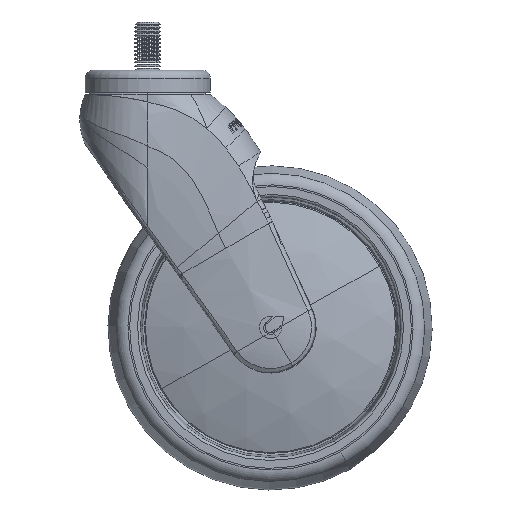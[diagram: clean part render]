
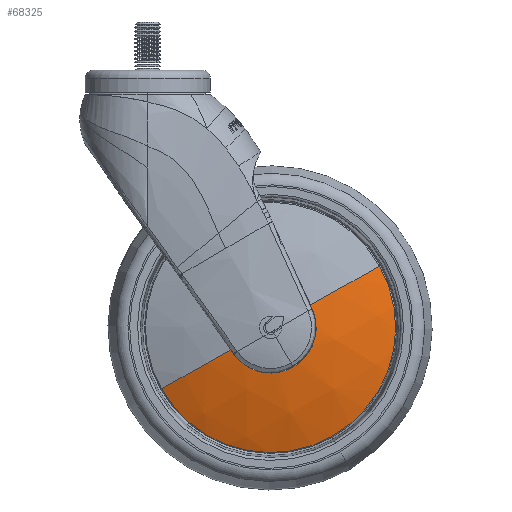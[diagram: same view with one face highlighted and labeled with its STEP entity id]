
A CAD part, front view. The second image highlights one B-rep face of the part: STEP entity #68325.
In plain terms, the highlighted spherical face has radius 136.86 mm.
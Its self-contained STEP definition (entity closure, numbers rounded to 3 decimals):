
#35863 = CARTESIAN_POINT ( 'NONE',  ( 16.374, -14.308, -55.701 ) ) ;
#35885 = CARTESIAN_POINT ( 'NONE',  ( 73.427, -6.77, -23.615 ) ) ;
#36067 = CARTESIAN_POINT ( 'NONE',  ( -10.118, -6.77, -70.599 ) ) ;
#36111 = CARTESIAN_POINT ( 'NONE',  ( 17.156, -14.315, -56.863 ) ) ;
#36158 = AXIS2_PLACEMENT_3D ( 'NONE', #36242, #36225, #36224 ) ;
#36160 = CARTESIAN_POINT ( 'NONE',  ( 31.655, 121.424, -47.107 ) ) ;
#36164 = SPHERICAL_SURFACE ( 'NONE', #36245, 136.86 ) ;
#36194 = FACE_OUTER_BOUND ( 'NONE', #68213, .T. ) ;
#36195 = CIRCLE ( 'NONE', #36158, 136.86 ) ;
#36211 = DIRECTION ( 'NONE',  ( -0.872, 0., -0.49 ) ) ;
#36212 = DIRECTION ( 'NONE',  ( 0., 1., 0. ) ) ;
#36216 = DIRECTION ( 'NONE',  ( -0.558, 0., 0.83 ) ) ;
#36217 = DIRECTION ( 'NONE',  ( -0.83, 0., -0.558 ) ) ;
#36218 = CARTESIAN_POINT ( 'NONE',  ( 31.655, -6.77, -47.107 ) ) ;
#36222 = AXIS2_PLACEMENT_3D ( 'NONE', #36218, #36212, #36211 ) ;
#36223 = AXIS2_PLACEMENT_3D ( 'NONE', #36226, #36217, #36216 ) ;
#36224 = DIRECTION ( 'NONE',  ( -0.872, 0., -0.49 ) ) ;
#36225 = DIRECTION ( 'NONE',  ( 0.49, 0., -0.872 ) ) ;
#36226 = CARTESIAN_POINT ( 'NONE',  ( 17.156, 121.424, -56.863 ) ) ;
#36230 = DIRECTION ( 'NONE',  ( 0.872, 0., 0.49 ) ) ;
#36242 = CARTESIAN_POINT ( 'NONE',  ( 31.655, 121.424, -47.107 ) ) ;
#36243 = CIRCLE ( 'NONE', #36223, 135.74 ) ;
#36244 = CIRCLE ( 'NONE', #36222, 47.925 ) ;
#36245 = AXIS2_PLACEMENT_3D ( 'NONE', #36160, #36247, #36230 ) ;
#36247 = DIRECTION ( 'NONE',  ( 0.49, 0., -0.872 ) ) ;
#36292 = CARTESIAN_POINT ( 'NONE',  ( 47.523, -14.315, -39.786 ) ) ;
#37033 = CARTESIAN_POINT ( 'NONE',  ( 46.936, -14.308, -38.513 ) ) ;
#37191 = CIRCLE ( 'NONE', #37209, 17.476 ) ;
#37209 = AXIS2_PLACEMENT_3D ( 'NONE', #37264, #37263, #37262 ) ;
#37249 = CIRCLE ( 'NONE', #37282, 136.86 ) ;
#37262 = DIRECTION ( 'NONE',  ( -0.872, 0., -0.49 ) ) ;
#37263 = DIRECTION ( 'NONE',  ( 0., 1., 0. ) ) ;
#37264 = CARTESIAN_POINT ( 'NONE',  ( 31.655, -14.315, -47.107 ) ) ;
#37281 = AXIS2_PLACEMENT_3D ( 'NONE', #37347, #37346, #37345 ) ;
#37282 = AXIS2_PLACEMENT_3D ( 'NONE', #37343, #37342, #37341 ) ;
#37341 = DIRECTION ( 'NONE',  ( 0.872, 0., 0.49 ) ) ;
#37342 = DIRECTION ( 'NONE',  ( -0.49, 0., 0.872 ) ) ;
#37343 = CARTESIAN_POINT ( 'NONE',  ( 31.655, 121.424, -47.107 ) ) ;
#37345 = DIRECTION ( 'NONE',  ( 0.419, 0., -0.908 ) ) ;
#37346 = DIRECTION ( 'NONE',  ( 0.908, 0., 0.419 ) ) ;
#37347 = CARTESIAN_POINT ( 'NONE',  ( 47.523, 121.424, -39.786 ) ) ;
#37348 = CIRCLE ( 'NONE', #37281, 135.74 ) ;
#68124 = ORIENTED_EDGE ( 'NONE', *, *, #68328, .T. ) ;
#68144 = VERTEX_POINT ( 'NONE', #35885 ) ;
#68199 = VERTEX_POINT ( 'NONE', #35863 ) ;
#68213 = EDGE_LOOP ( 'NONE', ( #68124, #68326, #68274, #68536, #68512, #68473 ) ) ;
#68227 = VERTEX_POINT ( 'NONE', #36111 ) ;
#68228 = VERTEX_POINT ( 'NONE', #36067 ) ;
#68274 = ORIENTED_EDGE ( 'NONE', *, *, #68329, .F. ) ;
#68325 = ADVANCED_FACE ( 'NONE', ( #36194 ), #36164, .T. ) ;
#68326 = ORIENTED_EDGE ( 'NONE', *, *, #68327, .T. ) ;
#68327 = EDGE_CURVE ( 'NONE', #68199, #68228, #36195, .T. ) ;
#68328 = EDGE_CURVE ( 'NONE', #68227, #68199, #36243, .T. ) ;
#68329 = EDGE_CURVE ( 'NONE', #68144, #68228, #36244, .T. ) ;
#68353 = VERTEX_POINT ( 'NONE', #36292 ) ;
#68399 = VERTEX_POINT ( 'NONE', #37033 ) ;
#68473 = ORIENTED_EDGE ( 'NONE', *, *, #68516, .T. ) ;
#68512 = ORIENTED_EDGE ( 'NONE', *, *, #68550, .T. ) ;
#68516 = EDGE_CURVE ( 'NONE', #68353, #68227, #37191, .T. ) ;
#68536 = ORIENTED_EDGE ( 'NONE', *, *, #68551, .F. ) ;
#68550 = EDGE_CURVE ( 'NONE', #68399, #68353, #37348, .T. ) ;
#68551 = EDGE_CURVE ( 'NONE', #68399, #68144, #37249, .T. ) ;
